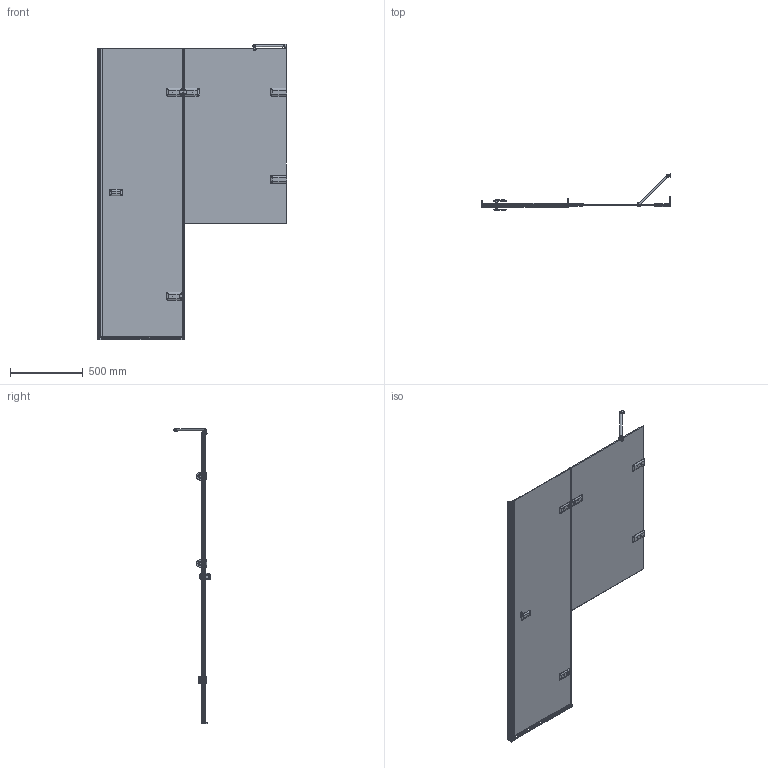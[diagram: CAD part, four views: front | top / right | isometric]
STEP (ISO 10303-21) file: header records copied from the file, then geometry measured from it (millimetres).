
FILE_DESCRIPTION(/* description */ ('Дверь'),/* implementation_level */ '2;1');
FILE_NAME(/* name */ 'D:\Работа\Сергей\Душевые кабинки\! Работа\! 32\TREND DOOR GK-862ALTWO\TREND DOOR GK-862ALTWO правая модель\TREND DOOR GK-862ALTWO ПРАВАЯ (3D для рендера).stp',/* time_stamp */ '2019-05-10T16:27:52+03:00',/* author */ ('User'),/* organization */ (''),/* preprocessor_version */ 'ST-DEVELOPER v15.2',/* originating_system */ 'Autodesk Inventor 2014',/* authorisation */ '');
FILE_SCHEMA (('CONFIG_CONTROL_DESIGN'));
Length unit declared in the file: millimetre
Products named in the file (67): Стекло.03 (0) TR; Стекло.02 (2-5) TR; M180-6; Магнит_180; М180-6; UP600M6.02; PR-10-SLK; 07-003; CH20-004; CH21-001; CH21-002; CH21-003; ISO 4026 - M5 x 5ISO; 113; UP603М8.03; PL-10-SLK10-R; PR-12-001; CH26-1 P1; CH26-1 P7; CH25-1 P2; CH25-1 P3; CH26-1 P8; CH27-1_2; CH26-1 P2; CH26-1 P3; CH26-1 P4; CH26-1 P5; CH26-1 P6; CH26-0 P13; CH26-0 P14; CH26-0 P15; CH26-0 P11; CH26-0 P12; CH27-0 P1; CH27-0 P3; CH27-0-P2; CH27-1_1; STB-12-3-001; STB-3 P2; STB-3 P3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
Bounding box: 1300 x 249.9 x 2031.49 mm (x, y, z)
Volume: 14547499.4 mm3; surface area: 5662245.4 mm2
Topology: 136 solids, 136 shells, 2397 faces, 5861 edges, 3780 vertices
Faces by surface type: plane 1294, cylinder 748, cone 190, bspline 84, torus 69, sphere 12
Full cylindrical faces by diameter (mm): 1.5 x10, 2.459 x2, 3 x3, 3.242 x6, 4 x23, 4.1 x1, 4.134 x5, 4.917 x12, 5 x10, 5.2 x2, 5.4 x2, 5.54 x2, 6 x21, 6.5 x10, 6.647 x1, 7.2 x4, 8 x9, 8.2 x4, 8.5 x1, 9 x7, 10 x9, 11 x9, 11.34 x10, 12 x23, 12.5 x1, 13 x23, 15 x1, 16 x7, 16.5 x2, 17.85 x2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
Entity records: 45225 total; most frequent: CARTESIAN_POINT 10537, DIRECTION 7168, ORIENTED_EDGE 6554, EDGE_CURVE 3277, AXIS2_PLACEMENT_3D 2582, VERTEX_POINT 2245, LINE 2004, VECTOR 2004
